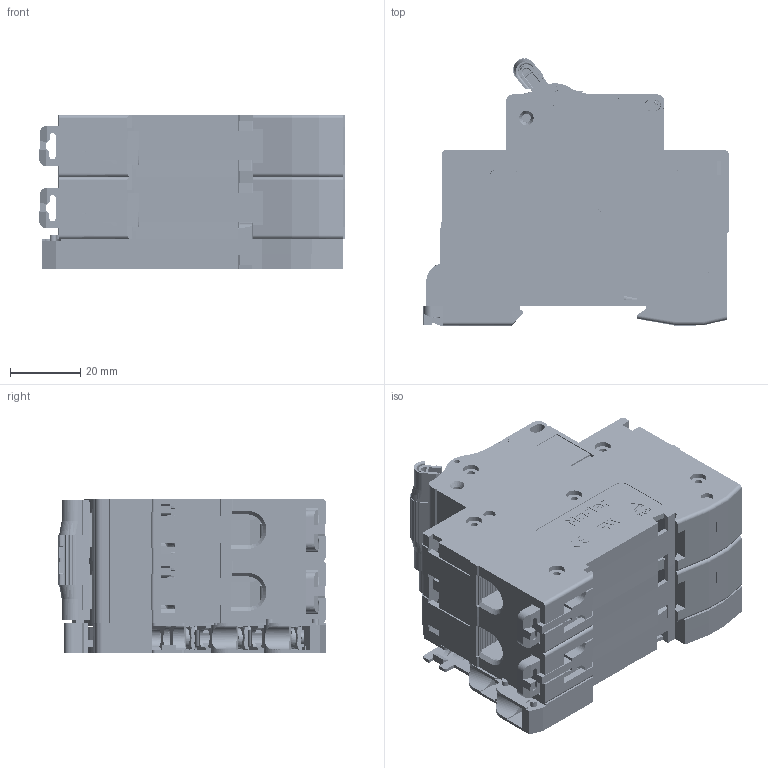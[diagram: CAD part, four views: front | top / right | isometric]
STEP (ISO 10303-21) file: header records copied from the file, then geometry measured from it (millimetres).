
FILE_DESCRIPTION (( 'STEP AP203' ), '1' );
FILE_NAME ('NDB2(Z)-63 2P+SD2.STEP', '2021-07-08T05:40:45', ( '' ), ( '' ), 'SwSTEP 2.0', 'SolidWorks 2018', '' );
FILE_SCHEMA (( 'CONFIG_CONTROL_DESIGN' ));
Length unit declared in the file: millimetre
Products named in the file (55): 8LD.239.1018.STEP.STEP; 5LD.574.103.STEP.STEP; 8LD.550.1163.STEP.STEP; 8LD.615.119.STEP.STEP; 5LD.516.103.STEP.STEP; 8LD.750.152.STEP.STEP; 8LD.257.111.STEP.STEP; 8LD.516.163.STEP.STEP; 8LD.143.115.STEP.STEP; 5LD.550.1187.STEP.STEP; 8LD.615.120.STEP.STEP; 8LD.235.112.STEP.STEP; 8LD.315.141.STEP.STEP; 8LD.039.100.STEP.STEP; SD2 耀倰芞; 8LD.522.117.12.STEP.STEP; 8LD.288.142.STEP.STEP; 8LD.288.143.STEP.STEP; 8LD.503.105.STEP.STEP; 5LD.740.106.STEP.STEP; 2LD.250.104.STEP.STEP; 8LD.156.146.STEP.STEP; NDB2(Z)-63 2P+SD2; 8LD.742.206.STEP.STEP; 8LD.270.115.STEP.STEP; 5LD.850.120.STEP.STEP; 8LD.024.137.STEP.STEP; 8LD.282.164.1~17.STEP.STEP; 8LD.550.1182.STEP.STEP; 5LD.550.165.STEP.STEP; NDB2-63 2P.STEP; 8LD.585.142.STEP.STEP; 8LD.282.141.STEP.STEP; 8LD.948.100.STEP.STEP; 8LD.612.138.STEP.STEP; 8LD.516.164.STEP.STEP; 8LD.234.103.STEP.STEP; 8LD.885.106.STEP.STEP; 8LD.321.101.STEP.STEP; 8LD.595.106.STEP.STEP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
Assembly tree (73 placements, depth 7):
  NDB2(Z)-63 2P+SD2
    NDB2-63 2P.STEP
      2LD.250.104.STEP.STEP  x2
        5LD.615.128.STEP.STEP
          5LD.520.139.12.STEP.STEP
            5LD.550.1187.STEP.STEP
              8LD.550.1182.STEP.STEP
              8LD.551.137.STEP.STEP
            8LD.612.138.STEP.STEP
            8LD.732.108.STEP.STEP
            8LD.615.119.STEP.STEP
            8LD.522.117.12.STEP.STEP
            8LD.516.164.STEP.STEP
          8LD.235.112.STEP.STEP
          8LD.615.120.STEP.STEP
          8LD.282.164.1~17.STEP.STEP
        5LD.740.106.STEP.STEP
          8LD.742.182.STEP.STEP  x12
          8LD.750.152.STEP.STEP  x4
        5LD.850.120.STEP.STEP
          8LD.948.100.STEP.STEP
          8LD.907.127.STEP.STEP
        5LD.574.103.STEP.STEP
          8LD.516.135.STEP.STEP
          8LD.907.115.STEP.STEP
        5LD.550.165.STEP.STEP
          5LD.421.104.1~13.STEP.STEP
            5LD.516.103.STEP.STEP
              8LD.516.163.STEP.STEP
              8LD.585.142.STEP.STEP
            8LD.595.106.STEP.STEP
            8LD.421.100.STEP.STEP
            8LD.503.105.STEP.STEP
            8LD.550.1163.STEP.STEP
            8LD.239.1018.STEP.STEP
          8LD.039.100.STEP.STEP
          8LD.206.173.STEP.STEP
          8LD.288.142.STEP.STEP
          8LD.270.115.STEP.STEP
          8LD.885.106.STEP.STEP
          8LD.282.141.STEP.STEP
        8LD.024.137.STEP.STEP
        8LD.315.140.STEP.STEP
        8LD.253.129.STEP.STEP
        8LD.321.101.STEP.STEP
        8LD.233.125.STEP.STEP
        8LD.257.111.STEP.STEP
        8LD.234.103.STEP.STEP
        8LD.742.206.STEP.STEP
        8LD.156.146.STEP.STEP
        8LD.143.115.STEP.STEP
        8LD.288.143.STEP.STEP
        8LD.315.141.STEP.STEP
      8LD.253.1228.STEP
    SD2 耀倰芞
Bounding box: 86.72 x 75.92 x 43.8 mm (x, y, z)
Volume: 103078.1 mm3; surface area: 176612.2 mm2
Topology: 171 solids, 174 shells, 14270 faces, 39600 edges, 25959 vertices
Faces by surface type: plane 8919, cylinder 3857, cone 885, bspline 462, torus 124, sphere 23
Entity records: 287359 total; most frequent: CARTESIAN_POINT 96535, ORIENTED_EDGE 40364, DIRECTION 36070, EDGE_CURVE 20182, LINE 13412, VECTOR 13412, VERTEX_POINT 13209, AXIS2_PLACEMENT_3D 11329
